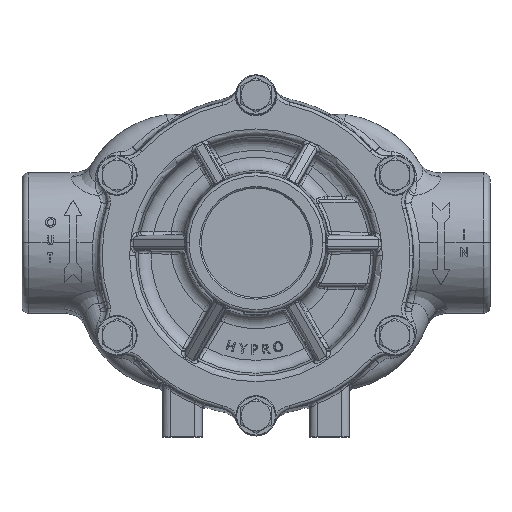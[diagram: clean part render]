
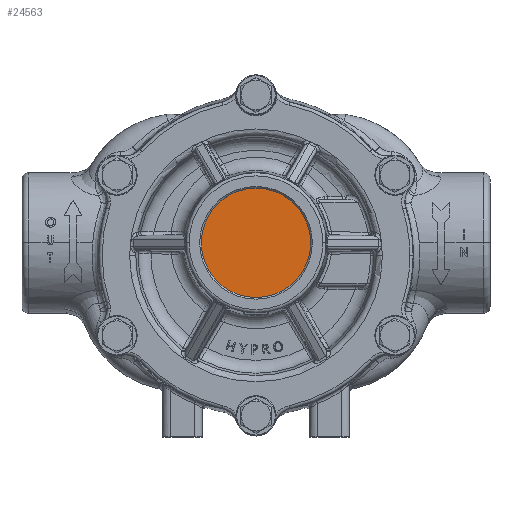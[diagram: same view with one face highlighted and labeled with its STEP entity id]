
A CAD part, top view. The second image highlights one B-rep face of the part: STEP entity #24563.
In plain terms, the highlighted planar face has unit normal (0, 0, 1).
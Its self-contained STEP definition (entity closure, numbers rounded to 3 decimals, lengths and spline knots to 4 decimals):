
#2520 = CARTESIAN_POINT ( 'NONE',  ( 0., 0., 1.1766 ) ) ;
#2521 = DIRECTION ( 'NONE',  ( 0., 0., 1. ) ) ;
#2522 = DIRECTION ( 'NONE',  ( 1., 0., 0. ) ) ;
#8552 = CARTESIAN_POINT ( 'NONE',  ( -1.0232, 0., 1.1766 ) ) ;
#8553 = CARTESIAN_POINT ( 'NONE',  ( 1.0232, 0., 1.1766 ) ) ;
#10428 = CARTESIAN_POINT ( 'NONE',  ( 0., 0.9843, 1.1766 ) ) ;
#10430 = PLANE ( 'NONE',  #63272 ) ;
#10433 = DIRECTION ( 'NONE',  ( 0., 0., 1. ) ) ;
#10434 = DIRECTION ( 'NONE',  ( 1., 0., 0. ) ) ;
#16432 = AXIS2_PLACEMENT_3D ( 'NONE', #27580, #27581, #27582 ) ;
#19857 = CIRCLE ( 'NONE', #16432, 1.0232 ) ;
#24563 = ADVANCED_FACE ( 'NONE', ( #71930 ), #10430, .T. ) ;
#27580 = CARTESIAN_POINT ( 'NONE',  ( 0., 0., 1.1766 ) ) ;
#27581 = DIRECTION ( 'NONE',  ( 0., 0., 1. ) ) ;
#27582 = DIRECTION ( 'NONE',  ( 1., 0., 0. ) ) ;
#37522 = EDGE_CURVE ( 'NONE', #53487, #53485, #19857, .T. ) ;
#39768 = ORIENTED_EDGE ( 'NONE', *, *, #52027, .T. ) ;
#39770 = ORIENTED_EDGE ( 'NONE', *, *, #37522, .T. ) ;
#52027 = EDGE_CURVE ( 'NONE', #53485, #53487, #54736, .T. ) ;
#53485 = VERTEX_POINT ( 'NONE', #8552 ) ;
#53487 = VERTEX_POINT ( 'NONE', #8553 ) ;
#54736 = CIRCLE ( 'NONE', #59783, 1.0232 ) ;
#59783 = AXIS2_PLACEMENT_3D ( 'NONE', #2520, #2521, #2522 ) ;
#63272 = AXIS2_PLACEMENT_3D ( 'NONE', #10428, #10433, #10434 ) ;
#64569 = EDGE_LOOP ( 'NONE', ( #39768, #39770 ) ) ;
#71930 = FACE_OUTER_BOUND ( 'NONE', #64569, .T. ) ;
